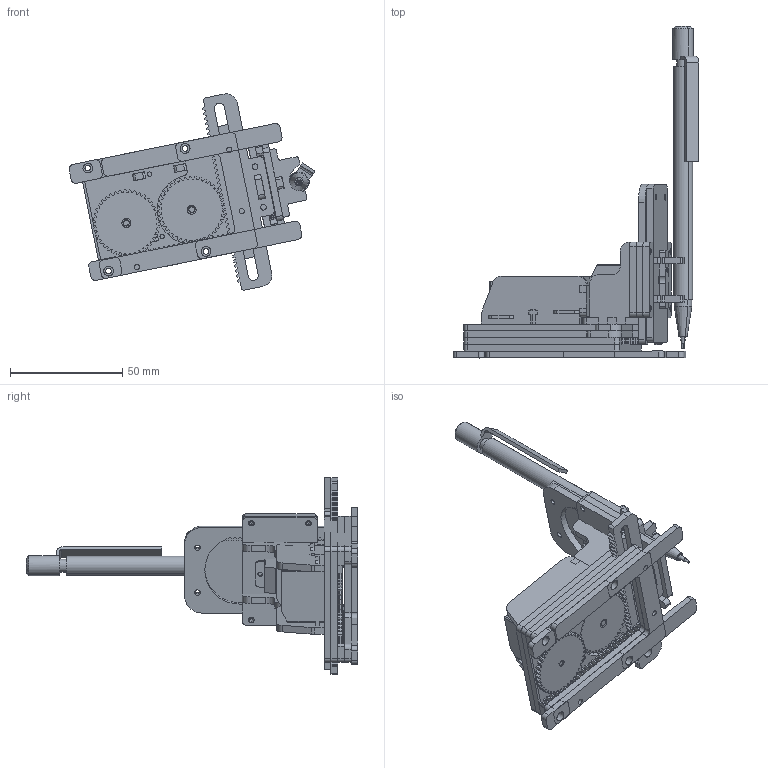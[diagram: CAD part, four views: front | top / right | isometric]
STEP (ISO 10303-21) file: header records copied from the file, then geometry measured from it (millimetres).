
FILE_DESCRIPTION (( 'STEP AP203' ), '1' );
FILE_NAME ('telaio_v5.STEP', '2013-12-18T23:16:44', ( 'Tiago' ), ( '' ), 'SwSTEP 2.0', 'SolidWorks 2012', '' );
FILE_SCHEMA (( 'CONFIG_CONTROL_DESIGN' ));
Length unit declared in the file: millimetre
Products named in the file (4): telaio_v5; Pencil; emax_es08d; Itteration_08_RootLayout_root
Assembly tree (5 placements, depth 2):
  telaio_v5
    Itteration_08_RootLayout_root
    emax_es08d  x3
    Pencil
Bounding box: 109.63 x 147.94 x 87.51 mm (x, y, z)
Volume: 96006.8 mm3; surface area: 79201.3 mm2
Topology: 40 solids, 40 shells, 2194 faces, 6288 edges, 4187 vertices
Faces by surface type: plane 1440, cylinder 393, bspline 353, cone 8
Entity records: 70245 total; most frequent: CARTESIAN_POINT 16694, ORIENTED_EDGE 11976, DIRECTION 9409, EDGE_CURVE 5988, LINE 4593, VECTOR 4593, VERTEX_POINT 3989, AXIS2_PLACEMENT_3D 2408
